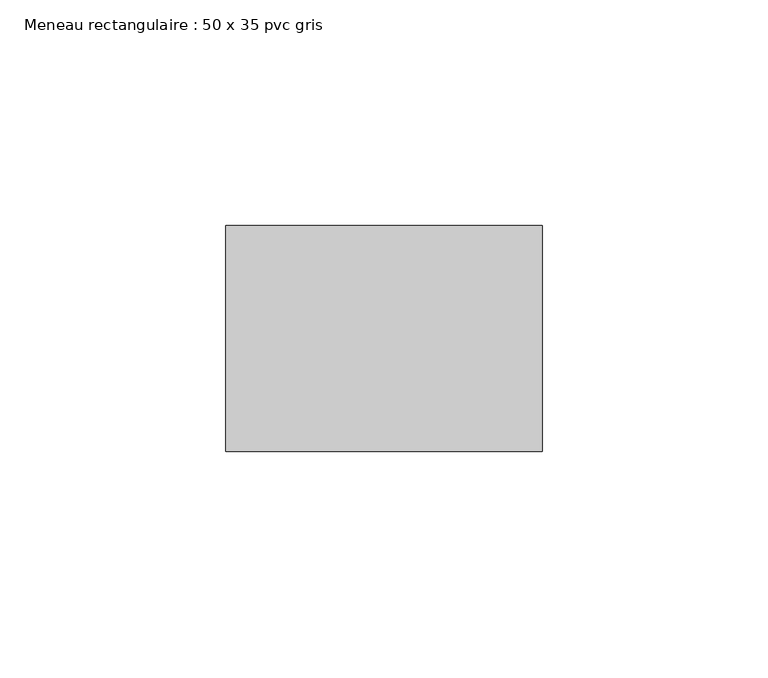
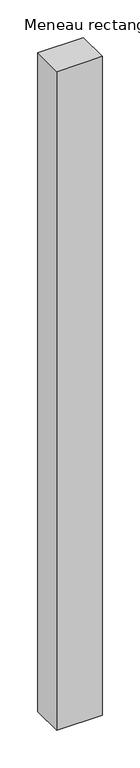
"""IFC4 building model written with IfcOpenShell, lengths in millimetres: member geometry, Meneau rectangulaire : 50 x 35 pvc gris."""

from ifc_helpers import new_model, si_unit, frame, origin, place, context, project, spatial, polyline, outline, extrude, source, transform, mapped, element, save


def meneau_rectangulaire_50_x_35_pvc_gris_e8c5f0ac(model_context):
    return source(origin(), model_context, "Body", "SweptSolid", [
        extrude(outline(polyline([(0.0, 0.0), (0.0, -50.0), (-70.0, -50.0), (-70.0, 0.0), (0.0, 0.0)])), frame((0.0, 0.0, -1066.4778931), z_axis=(0.0, 0.0, 1.0), x_axis=(1.0, 0.0, 0.0)), (0.0, 0.0, 1.0), 1066.4778931),
    ])


if __name__ == "__main__":
    model = new_model("IFC4")
    model_context = context("Model", 3, world=origin())
    ifc_project = project(units=[si_unit("LENGTHUNIT", "METRE", prefix="MILLI")], contexts=[model_context])
    site = spatial("IfcSite", under=ifc_project)
    building = spatial("IfcBuilding", under=site)
    placement = place(None, origin())
    meneau_rectangulaire_50_x_35_pvc_gris_shape = meneau_rectangulaire_50_x_35_pvc_gris_e8c5f0ac(model_context)
    element("IfcMember", 1, ObjectType="Meneau rectangulaire : 50 x 35 pvc gris", at=placement, inside=building, context=model_context, shape_type="MappedRepresentation", body=[
        mapped(meneau_rectangulaire_50_x_35_pvc_gris_shape, transform((0.0, 0.0, 0.0), x_axis=(1.0, 0.0, 0.0), y_axis=(0.0, 1.0, 0.0), z_axis=(0.0, 0.0, 1.0))),
    ])
    save(model, "model.ifc")
